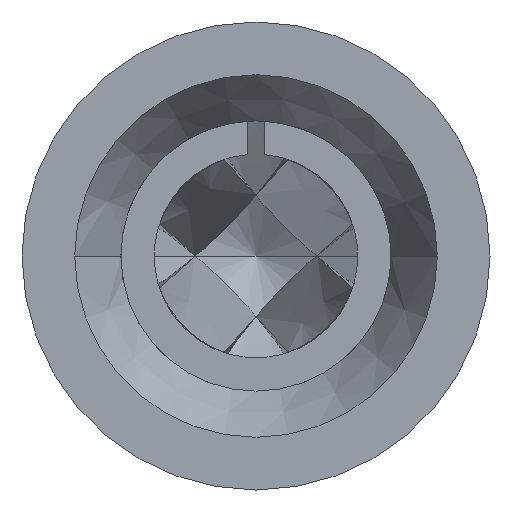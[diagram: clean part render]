
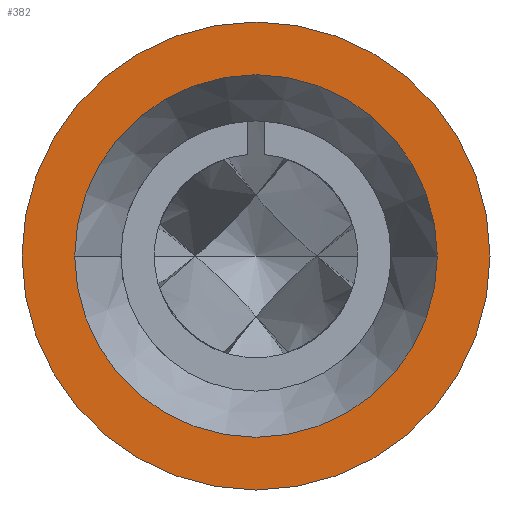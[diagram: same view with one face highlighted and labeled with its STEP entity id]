
A CAD part, left-side view. The second image highlights one B-rep face of the part: STEP entity #382.
In plain terms, the highlighted planar face has unit normal (-1, 0, 0).
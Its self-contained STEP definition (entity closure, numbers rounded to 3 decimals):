
#115=CARTESIAN_POINT('',(0.,0.,0.));
#116=DIRECTION('',(-1.,0.,0.));
#117=DIRECTION('',(0.,1.,0.));
#118=AXIS2_PLACEMENT_3D('',#115,#116,#117);
#123=CARTESIAN_POINT('',(0.,0.,0.));
#124=DIRECTION('',(1.,0.,0.));
#125=DIRECTION('',(0.,1.,0.));
#126=AXIS2_PLACEMENT_3D('',#123,#124,#125);
#131=CARTESIAN_POINT('',(0.,0.,0.));
#132=DIRECTION('',(-1.,0.,0.));
#133=DIRECTION('',(0.,1.,0.));
#134=AXIS2_PLACEMENT_3D('',#131,#132,#133);
#139=CARTESIAN_POINT('',(0.,0.,0.));
#140=DIRECTION('',(-1.,0.,0.));
#141=DIRECTION('',(0.,-1.,0.));
#142=AXIS2_PLACEMENT_3D('',#139,#140,#141);
#226=CARTESIAN_POINT('',(0.,0.71,0.));
#228=VERTEX_POINT('',#226);
#234=CARTESIAN_POINT('',(0.,-0.71,0.));
#236=VERTEX_POINT('',#234);
#247=CARTESIAN_POINT('',(0.,0.55,0.));
#248=CARTESIAN_POINT('',(0.,-0.55,0.));
#249=VERTEX_POINT('',#247);
#250=VERTEX_POINT('',#248);
#367=CARTESIAN_POINT('',(0.,0.,0.));
#368=DIRECTION('',(1.,0.,0.));
#369=DIRECTION('',(0.,-1.,0.));
#370=AXIS2_PLACEMENT_3D('',#367,#368,#369);
#371=PLANE('',#370);
#372=ORIENTED_EDGE('',*,*,#346,.F.);
#373=ORIENTED_EDGE('',*,*,#362,.T.);
#374=EDGE_LOOP('',(#372,#373));
#375=FACE_OUTER_BOUND('',#374,.F.);
#377=ORIENTED_EDGE('',*,*,#376,.T.);
#379=ORIENTED_EDGE('',*,*,#378,.T.);
#380=EDGE_LOOP('',(#377,#379));
#381=FACE_BOUND('',#380,.F.);
#382=ADVANCED_FACE('',(#375,#381),#371,.F.);
#119=CIRCLE('',#118,0.71);
#127=CIRCLE('',#126,0.71);
#135=CIRCLE('',#134,0.55);
#143=CIRCLE('',#142,0.55);
#346=EDGE_CURVE('',#228,#236,#119,.T.);
#362=EDGE_CURVE('',#228,#236,#127,.T.);
#376=EDGE_CURVE('',#249,#250,#135,.T.);
#378=EDGE_CURVE('',#250,#249,#143,.T.);
